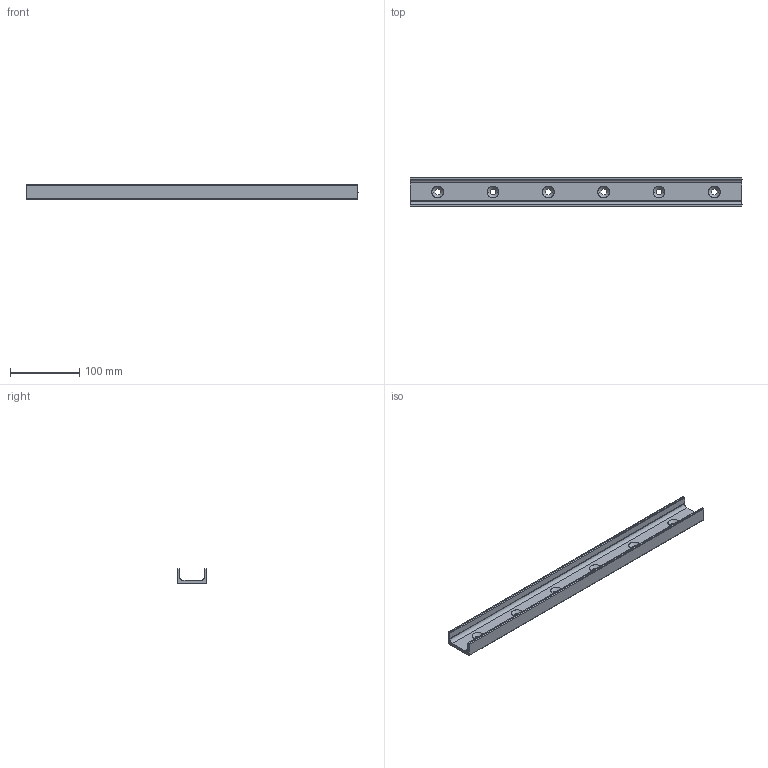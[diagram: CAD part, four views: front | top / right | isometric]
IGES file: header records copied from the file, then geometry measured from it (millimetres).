
Start section: SolidWorks IGES file using analytic representation for surfaces
Global section: file name: C:\Users\IanO\Desktop\43\L1943.ULV43_v2_20180121_IGES\L1943.ULV43-0480.igs; native system: SolidWorks 2017; preprocessor: SolidWorks 2017; author: IanO; date: 190121.085859; units: millimetre
Bounding box: 480 x 43 x 21 mm (x, y, z)
Surface area: 75018.3 mm2 (no closed solid volume)
Topology: 0 solids, 0 shells, 50 faces, 774 edges, 774 vertices
Faces by surface type: revolution 37, bspline 13
